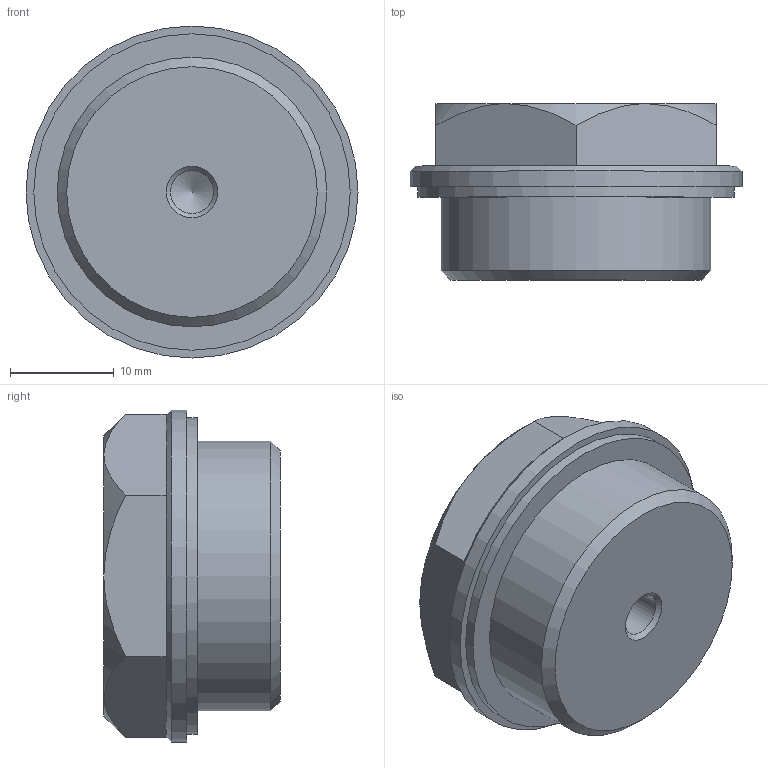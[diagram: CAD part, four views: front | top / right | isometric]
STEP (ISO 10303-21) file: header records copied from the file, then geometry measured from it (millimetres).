
FILE_DESCRIPTION( ( 'STEP AP203' ), '1' );
FILE_NAME( 'C:/Temp/Ganter_Step_05_03_2020/data/3_5/gn742/gn742_1/Threaded plug GN 742-32-M26x1,5-OSS-1.stp', '2020-03-12T13:39:17', ( 'License CC BY-ND 4.0' ), ( 'CADENAS' ), ' ', 'PARTsolutions', ' ' );
FILE_SCHEMA( ( 'CONFIG_CONTROL_DESIGN' ) );
Length unit declared in the file: millimetre
Products named in the file (1): _Threaded plug GN 742-32-M26x1,5-OSS-1
Bounding box: 32 x 17 x 32 mm (x, y, z)
Volume: 10110.2 mm3; surface area: 3170.5 mm2
Topology: 1 solids, 1 shells, 36 faces, 74 edges, 42 vertices
Faces by surface type: plane 22, cone 10, cylinder 4
Full cylindrical faces by diameter (mm): 4.134 x1, 26 x1, 30.5 x1, 32 x1
Entity records: 980 total; most frequent: CARTESIAN_POINT 226, DIRECTION 154, ORIENTED_EDGE 128, AXIS2_PLACEMENT_3D 65, EDGE_CURVE 64, EDGE_LOOP 46, VERTEX_POINT 41, FACE_OUTER_BOUND 40
